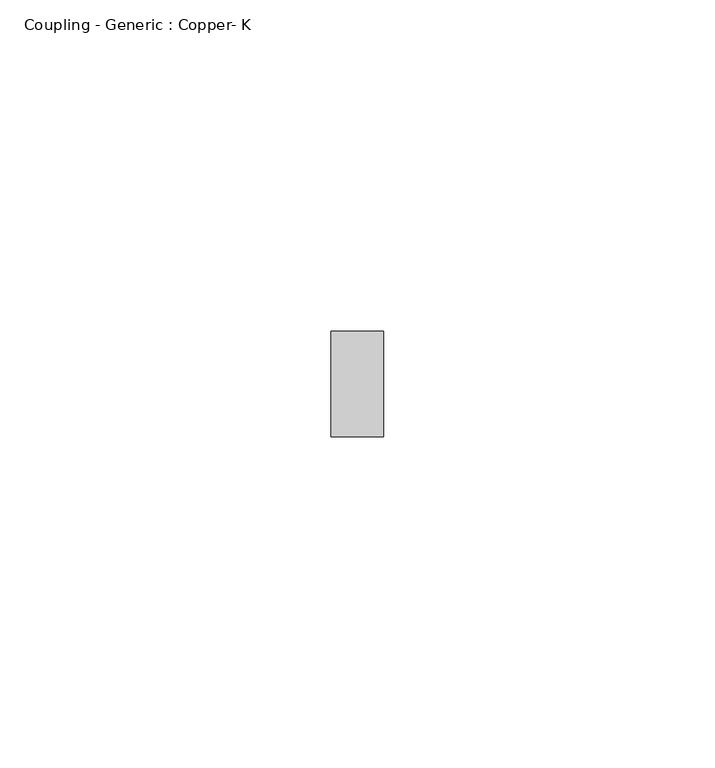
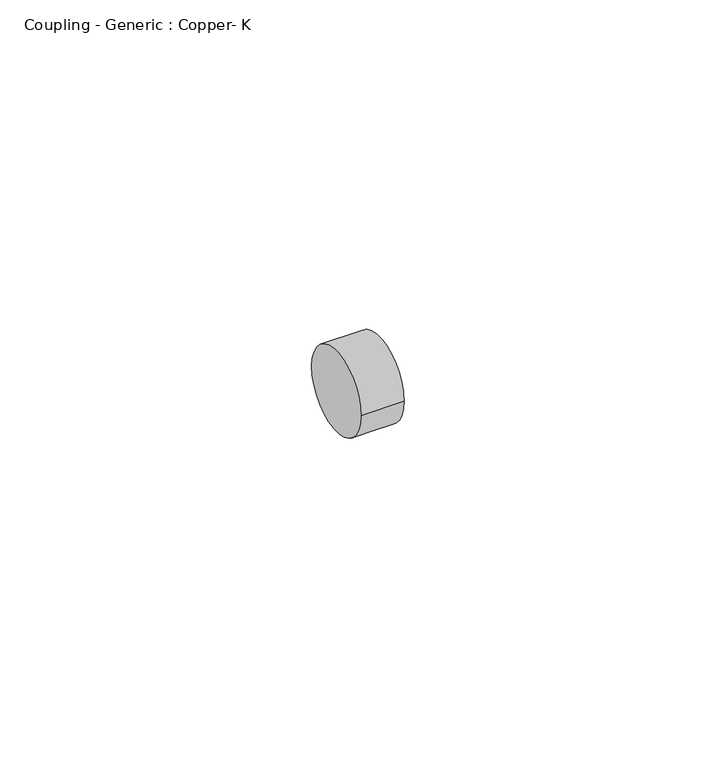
"""IFC4 building model written with IfcOpenShell, lengths in millimetres: pipe fitting geometry, Coupling - Generic : Copper- K."""

from ifc_helpers import new_model, si_unit, point, frame, origin, origin_2d, place, context, project, spatial, circle_curve, trimmed, segment, composite_curve, outline, extrude, source, transform, mapped, element, save


def coupling_generic_copper_k_c11501f2(model_context):
    return source(origin(), model_context, "Body", "SweptSolid", [
        extrude(outline(composite_curve([segment(trimmed(circle_curve(origin_2d(), 7.9375), [point((-7.9375, 0.0))], [point((7.9375, 0.0))], False, "CARTESIAN"), True, "CONTINUOUS"), segment(trimmed(circle_curve(origin_2d(), 7.9375), [point((7.9375, 0.0))], [point((-7.9375, 0.0))], False, "CARTESIAN"), True, "CONTINUOUS")], self_intersect=False)), frame((-3.96875, 0.0, 0.0), z_axis=(1.0, 0.0, 0.0), x_axis=(0.0, 1.0, 0.0)), (0.0, 0.0, 1.0), 7.9375),
    ])


if __name__ == "__main__":
    model = new_model("IFC4")
    model_context = context("Model", 3, world=origin())
    ifc_project = project(units=[si_unit("LENGTHUNIT", "METRE", prefix="MILLI")], contexts=[model_context])
    site = spatial("IfcSite", under=ifc_project)
    building = spatial("IfcBuilding", under=site)
    placement = place(None, origin())
    coupling_generic_copper_k_shape = coupling_generic_copper_k_c11501f2(model_context)
    element("IfcPipeFitting", 1, ObjectType="Coupling - Generic : Copper- K", at=placement, inside=building, context=model_context, shape_type="MappedRepresentation", body=[
        mapped(coupling_generic_copper_k_shape, transform((0.0, 0.0, 0.0), x_axis=(1.0, 0.0, 0.0), y_axis=(0.0, 1.0, 0.0), z_axis=(0.0, 0.0, 1.0))),
    ])
    save(model, "model.ifc")
